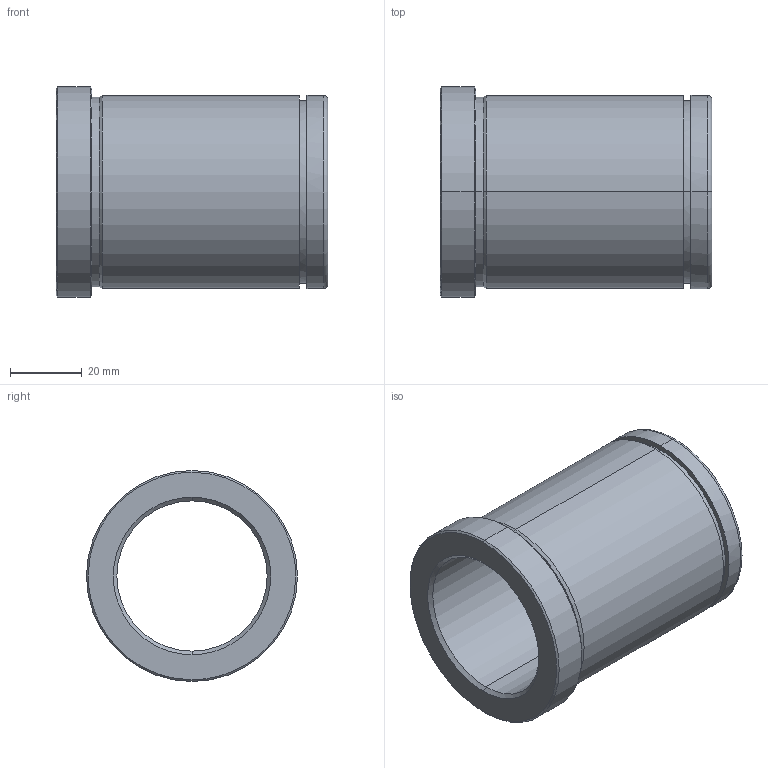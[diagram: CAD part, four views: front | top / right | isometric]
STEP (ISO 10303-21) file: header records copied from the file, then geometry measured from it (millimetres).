
FILE_DESCRIPTION(('CATIA V5 STEP Exchange'),'2;1');
FILE_NAME('C:\Users\Utente\Desktop\IO LAVORO\3D X SITO CF\X SITO\PLASTICA\553\553-42X76.stp','2021-06-08T17:54:05+00:00',('none'),('none'),'CATIA Version 5 Release 20 GA (IN-10)','CATIA V5 STEP AP203','none');
FILE_SCHEMA(('CONFIG_CONTROL_DESIGN'));
Length unit declared in the file: millimetre
Products named in the file (1): 553-42X76
Bounding box: 76 x 59 x 59 mm (x, y, z)
Volume: 72117.3 mm3; surface area: 25936.6 mm2
Topology: 1 solids, 1 shells, 29 faces, 92 edges, 68 vertices
Faces by surface type: cylinder 12, cone 8, plane 5, torus 4
Entity records: 1222 total; most frequent: CARTESIAN_POINT 368, ORIENTED_EDGE 184, DIRECTION 136, EDGE_CURVE 92, AXIS2_PLACEMENT_3D 88, VERTEX_POINT 68, CIRCLE 58, EDGE_LOOP 34
